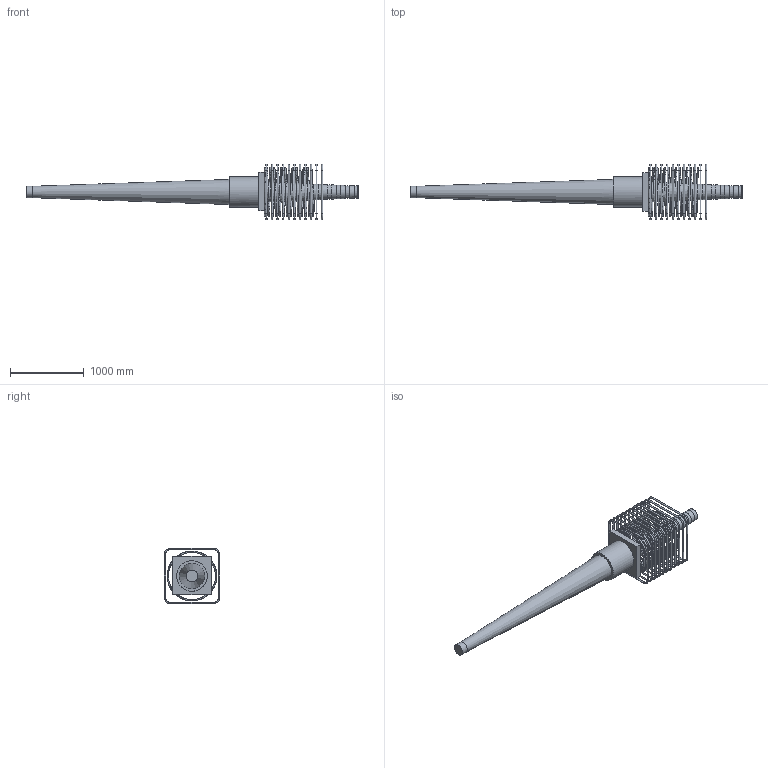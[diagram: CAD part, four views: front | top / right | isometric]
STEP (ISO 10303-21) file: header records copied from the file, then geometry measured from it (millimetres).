
FILE_DESCRIPTION(/* description */ (''),/* implementation_level */ '2;1');
FILE_NAME(/* name */ 'Z:\04 Publications\05 Give-out\BBR\6_3D_Models\BBR VT CONA CMI\BBR VT CONA CMI SP\04306\BBR VT CONA CMI SP 4306_Coupler H Assembly_CS-34,28.stp',/* time_stamp */ '2017-05-09T10:29:19+02:00',/* author */ ('IP'),/* organization */ (''),/* preprocessor_version */ 'ST-DEVELOPER v16.1',/* originating_system */ 'Autodesk Inventor 2016',/* authorisation */ '');
FILE_SCHEMA (('AUTOMOTIVE_DESIGN { 1 0 10303 214 3 1 1 }'));
Products named in the file (1): BBR VT CONA CMI SP 4306_Coupler H Assembly_CS-34,28
Bounding box: 4490 x 755 x 755 mm (x, y, z)
Volume: 272297118.8 mm3; surface area: 7461586.8 mm2
Topology: 13 solids, 13 shells, 829 faces, 2179 edges, 1420 vertices
Faces by surface type: bspline 395, plane 266, cylinder 110, torus 51, cone 7
Full cylindrical faces by diameter (mm): 20 x44, 155 x1, 413 x1
Entity records: 40858 total; most frequent: CARTESIAN_POINT 23000, ORIENTED_EDGE 4150, DIRECTION 2501, EDGE_CURVE 2072, VERTEX_POINT 1417, EDGE_LOOP 1004, LINE 929, VECTOR 929
